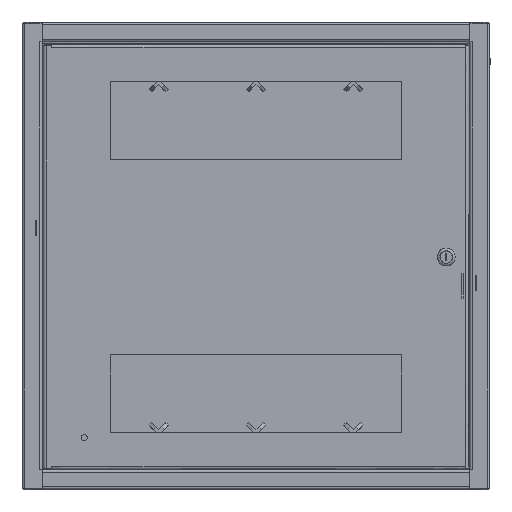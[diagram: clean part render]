
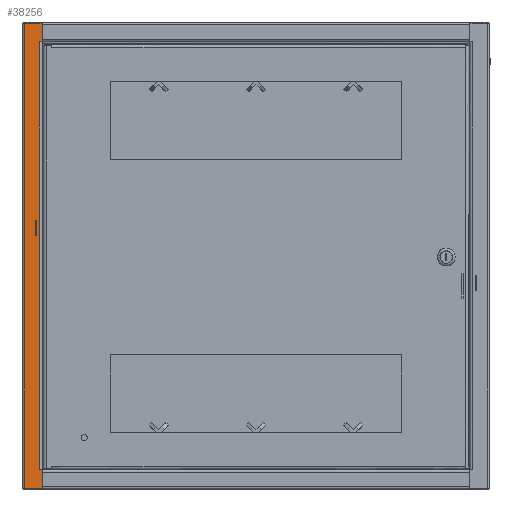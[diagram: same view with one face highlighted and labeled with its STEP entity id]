
A CAD part, top view. The second image highlights one B-rep face of the part: STEP entity #38256.
In plain terms, the highlighted free-form (B-spline) face has degree [1, 1] with [2, 2] control points.
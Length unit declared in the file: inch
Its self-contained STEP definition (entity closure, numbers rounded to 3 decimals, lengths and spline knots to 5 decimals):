
#37174=CARTESIAN_POINT('V651',(-13.18571,2.61916,
   12.335));
#37175=VERTEX_POINT('V651',#37174);
#37188=CARTESIAN_POINT('V654',(-13.18571,1.83816,
   12.335));
#37189=VERTEX_POINT('V654',#37188);
#37195=CARTESIAN_POINT('E959',(-13.18571,1.83816,
   12.335));
#37196=CARTESIAN_POINT('E959',(-13.18571,2.61916,
   12.335));
#37197=QUASI_UNIFORM_CURVE('E959',1,(#37195,#37196),.POLYLINE_FORM.,
   .F.,.U.);
#37198=EDGE_CURVE('E959',#37189,#37175,#37197,.T.);
#37216=CARTESIAN_POINT('V653',(-13.27071,1.83816,
   12.335));
#37217=VERTEX_POINT('V653',#37216);
#37223=CARTESIAN_POINT('E958',(-13.27071,1.83816,
   12.335));
#37224=CARTESIAN_POINT('E958',(-13.18571,1.83816,
   12.335));
#37225=QUASI_UNIFORM_CURVE('E958',1,(#37223,#37224),.POLYLINE_FORM.,
   .F.,.U.);
#37226=EDGE_CURVE('E958',#37217,#37189,#37225,.T.);
#37244=CARTESIAN_POINT('V652',(-13.27071,2.61916,
   12.335));
#37245=VERTEX_POINT('V652',#37244);
#37251=CARTESIAN_POINT('E957',(-13.27071,2.61916,
   12.335));
#37252=CARTESIAN_POINT('E957',(-13.27071,1.83816,
   12.335));
#37253=QUASI_UNIFORM_CURVE('E957',1,(#37251,#37252),.POLYLINE_FORM.,
   .F.,.U.);
#37254=EDGE_CURVE('E957',#37245,#37217,#37253,.T.);
#37271=CARTESIAN_POINT('E956',(-13.18571,2.61916,
   12.335));
#37272=CARTESIAN_POINT('E956',(-13.27071,2.61916,
   12.335));
#37273=QUASI_UNIFORM_CURVE('E956',1,(#37271,#37272),.POLYLINE_FORM.,
   .F.,.U.);
#37274=EDGE_CURVE('E956',#37175,#37245,#37273,.T.);
#37284=CARTESIAN_POINT('V643',(-13.02721,
   11.81116,12.335));
#37285=VERTEX_POINT('V643',#37284);
#37308=CARTESIAN_POINT('V650',(-12.91221,
   11.81116,12.335));
#37309=VERTEX_POINT('V650',#37308);
#37315=CARTESIAN_POINT('E955',(-12.91221,
   11.81116,12.335));
#37316=CARTESIAN_POINT('E955',(-13.02721,
   11.81116,12.335));
#37317=QUASI_UNIFORM_CURVE('E955',1,(#37315,#37316),.POLYLINE_FORM.,
   .F.,.U.);
#37318=EDGE_CURVE('E955',#37309,#37285,#37317,.T.);
#37336=CARTESIAN_POINT('V649',(-12.91221,
   12.75616,12.335));
#37337=VERTEX_POINT('V649',#37336);
#37343=CARTESIAN_POINT('E954',(-12.91221,
   12.75616,12.335));
#37344=CARTESIAN_POINT('E954',(-12.91221,
   11.81116,12.335));
#37345=QUASI_UNIFORM_CURVE('E954',1,(#37343,#37344),.POLYLINE_FORM.,
   .F.,.U.);
#37346=EDGE_CURVE('E954',#37337,#37309,#37345,.T.);
#37365=CARTESIAN_POINT('V647',(-13.79721,
   -11.13384,12.335));
#37366=VERTEX_POINT('V647',#37365);
#37367=CARTESIAN_POINT('V648',(-13.79721,
   12.75616,12.335));
#37368=VERTEX_POINT('V648',#37367);
#37369=CARTESIAN_POINT('E952',(-13.79721,
   -11.13384,12.335));
#37370=CARTESIAN_POINT('E952',(-13.79721,
   12.75616,12.335));
#37371=QUASI_UNIFORM_CURVE('E952',1,(#37369,#37370),.POLYLINE_FORM.,
   .F.,.U.);
#37372=EDGE_CURVE('E952',#37366,#37368,#37371,.T.);
#37536=CARTESIAN_POINT('V646',(-12.91221,
   -11.13384,12.335));
#37537=VERTEX_POINT('V646',#37536);
#37543=CARTESIAN_POINT('E951',(-12.91221,
   -11.13384,12.335));
#37544=CARTESIAN_POINT('E951',(-13.79721,
   -11.13384,12.335));
#37545=QUASI_UNIFORM_CURVE('E951',1,(#37543,#37544),.POLYLINE_FORM.,
   .F.,.U.);
#37546=EDGE_CURVE('E951',#37537,#37366,#37545,.T.);
#37570=CARTESIAN_POINT('V645',(-12.91221,
   -10.18884,12.335));
#37571=VERTEX_POINT('V645',#37570);
#37577=CARTESIAN_POINT('E950',(-12.91221,
   -10.18884,12.335));
#37578=CARTESIAN_POINT('E950',(-12.91221,
   -11.13384,12.335));
#37579=QUASI_UNIFORM_CURVE('E950',1,(#37577,#37578),.POLYLINE_FORM.,
   .F.,.U.);
#37580=EDGE_CURVE('E950',#37571,#37537,#37579,.T.);
#37590=CARTESIAN_POINT('V644',(-13.02721,
   -10.18884,12.335));
#37591=VERTEX_POINT('V644',#37590);
#37592=CARTESIAN_POINT('E949',(-13.02721,
   -10.18884,12.335));
#37593=CARTESIAN_POINT('E949',(-12.91221,
   -10.18884,12.335));
#37594=QUASI_UNIFORM_CURVE('E949',1,(#37592,#37593),.POLYLINE_FORM.,
   .F.,.U.);
#37595=EDGE_CURVE('E949',#37591,#37571,#37594,.T.);
#38221=CARTESIAN_POINT('E948',(-13.02721,
   11.81116,12.335));
#38222=CARTESIAN_POINT('E948',(-13.02721,
   -10.18884,12.335));
#38223=QUASI_UNIFORM_CURVE('E948',1,(#38221,#38222),.POLYLINE_FORM.,
   .F.,.U.);
#38224=EDGE_CURVE('E948',#37285,#37591,#38223,.T.);
#38231=CARTESIAN_POINT('F266',(-13.79839,
   12.75734,12.335));
#38232=CARTESIAN_POINT('F266',(-12.91103,
   12.75734,12.335));
#38233=CARTESIAN_POINT('F266',(-13.79839,
   -11.13503,12.335));
#38234=CARTESIAN_POINT('F266',(-12.91103,
   -11.13503,12.335));
#38235=B_SPLINE_SURFACE_WITH_KNOTS('F266',1,1,((#38231,#38233),(
   #38232,#38234)),.PLANE_SURF.,.F.,.F.,.U.,(2,2),(2,2),(0.0,1.0),
   (0.0,26.92515),.UNSPECIFIED.);
#38236=ORIENTED_EDGE('F365',*,*,#37318,.F.);
#38237=ORIENTED_EDGE('F366',*,*,#37346,.F.);
#38238=CARTESIAN_POINT('E953',(-13.79721,
   12.75616,12.335));
#38239=CARTESIAN_POINT('E953',(-12.91221,
   12.75616,12.335));
#38240=QUASI_UNIFORM_CURVE('E953',1,(#38238,#38239),.POLYLINE_FORM.,
   .F.,.U.);
#38241=EDGE_CURVE('E953',#37368,#37337,#38240,.T.);
#38242=ORIENTED_EDGE('E953',*,*,#38241,.F.);
#38243=ORIENTED_EDGE('E952',*,*,#37372,.F.);
#38244=ORIENTED_EDGE('E951',*,*,#37546,.F.);
#38245=ORIENTED_EDGE('F418',*,*,#37580,.F.);
#38246=ORIENTED_EDGE('E949',*,*,#37595,.F.);
#38247=ORIENTED_EDGE('E948',*,*,#38224,.F.);
#38248=EDGE_LOOP('F266',(#38236,#38237,#38242,#38243,#38244,#38245,
   #38246,#38247));
#38249=FACE_OUTER_BOUND('F266',#38248,.T.);
#38250=ORIENTED_EDGE('F357',*,*,#37198,.F.);
#38251=ORIENTED_EDGE('F358',*,*,#37226,.F.);
#38252=ORIENTED_EDGE('F359',*,*,#37254,.F.);
#38253=ORIENTED_EDGE('F360',*,*,#37274,.F.);
#38254=EDGE_LOOP('F266',(#38250,#38251,#38252,#38253));
#38255=FACE_BOUND('F266',#38254,.T.);
#38256=ADVANCED_FACE('F266',(#38249,#38255),#38235,.F.);
